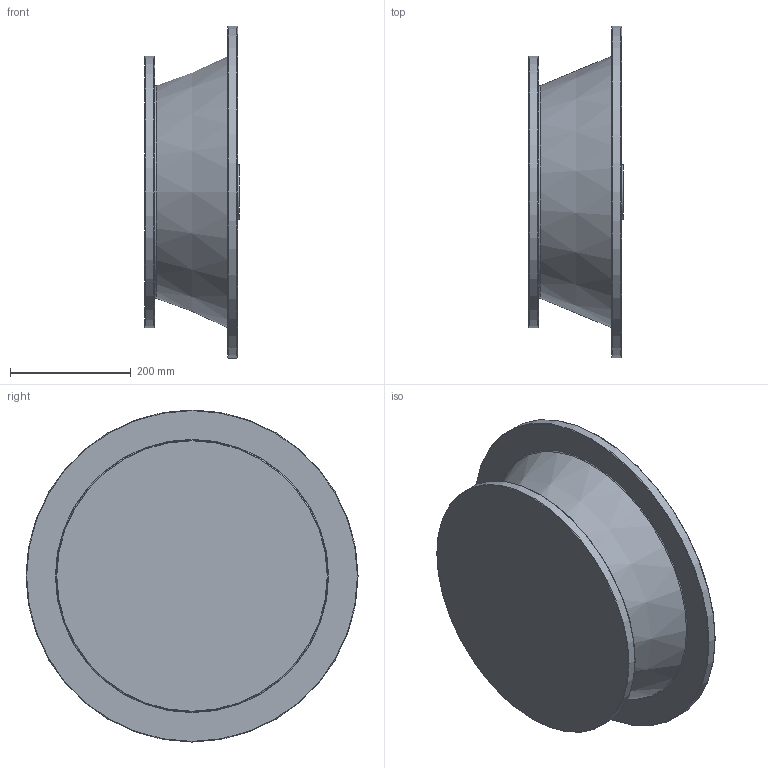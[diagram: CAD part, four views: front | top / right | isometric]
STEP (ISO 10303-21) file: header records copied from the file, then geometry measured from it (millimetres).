
FILE_DESCRIPTION((''),'2;1');
FILE_NAME('D:\PAWEŁ\ZLECENIA\2011 DualSystem\Przekładnie DR\DR140\STEP\250_B5_L153,5.stp','2012-06-11T12:54:57',('admin'),(''),'Autodesk Inventor 2009','Autodesk Inventor 2009','');
FILE_SCHEMA(('AUTOMOTIVE_DESIGN { 1 0 10303 214 1 1 1 1 }'));
Length unit declared in the file: millimetre
Products named in the file (1): 250_B5_L153,5
Bounding box: 156 x 550 x 550 mm (x, y, z)
Volume: 5352267.5 mm3; surface area: 942371.2 mm2
Topology: 1 solids, 1 shells, 42 faces, 70 edges, 44 vertices
Faces by surface type: bspline 18, plane 11, cylinder 6, torus 5, cone 2
Full cylindrical faces by diameter (mm): 90 x1, 437.024 x1, 450 x2, 550 x1
Entity records: 1131 total; most frequent: CARTESIAN_POINT 401, DIRECTION 136, ORIENTED_EDGE 96, EDGE_LOOP 78, AXIS2_PLACEMENT_3D 63, EDGE_CURVE 48, VERTEX_POINT 44, FACE_OUTER_BOUND 42
